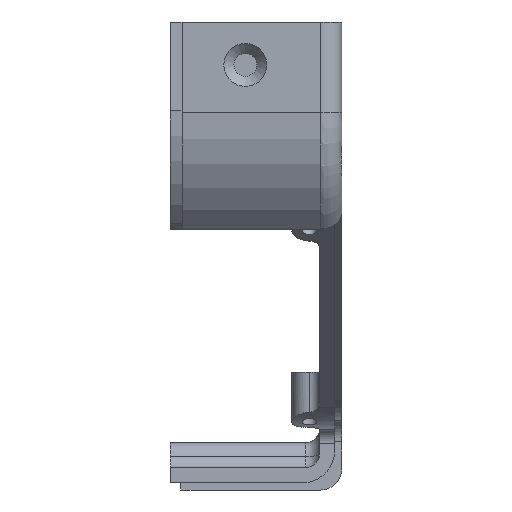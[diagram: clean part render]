
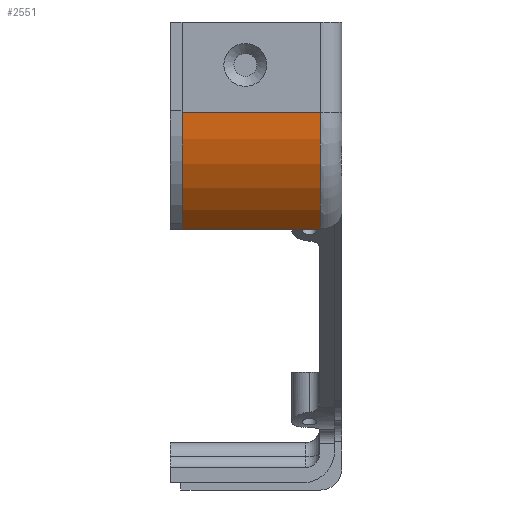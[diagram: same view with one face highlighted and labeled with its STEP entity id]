
A CAD part, front view. The second image highlights one B-rep face of the part: STEP entity #2551.
In plain terms, the highlighted cylindrical face has radius 21.5 mm (diameter 43 mm), a partial arc.
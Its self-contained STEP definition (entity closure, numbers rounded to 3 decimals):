
#184=CYLINDRICAL_SURFACE('',#2859,21.5);
#318=FACE_OUTER_BOUND('',#476,.T.);
#476=EDGE_LOOP('',(#2390,#2391,#2392,#2393));
#681=LINE('',#4653,#884);
#682=LINE('',#4655,#885);
#884=VECTOR('',#3645,10.);
#885=VECTOR('',#3648,10.);
#960=CIRCLE('',#2680,21.5);
#992=CIRCLE('',#2734,21.5);
#1143=VERTEX_POINT('',#4004);
#1144=VERTEX_POINT('',#4006);
#1206=VERTEX_POINT('',#4198);
#1207=VERTEX_POINT('',#4200);
#1419=EDGE_CURVE('',#1143,#1144,#960,.T.);
#1506=EDGE_CURVE('',#1206,#1207,#992,.T.);
#1658=EDGE_CURVE('',#1206,#1144,#681,.T.);
#1659=EDGE_CURVE('',#1143,#1207,#682,.T.);
#2390=ORIENTED_EDGE('',*,*,#1506,.F.);
#2391=ORIENTED_EDGE('',*,*,#1658,.T.);
#2392=ORIENTED_EDGE('',*,*,#1419,.F.);
#2393=ORIENTED_EDGE('',*,*,#1659,.T.);
#2551=ADVANCED_FACE('',(#318),#184,.T.);
#2680=AXIS2_PLACEMENT_3D('',#4007,#3141,#3142);
#2734=AXIS2_PLACEMENT_3D('',#4201,#3302,#3303);
#2859=AXIS2_PLACEMENT_3D('',#4654,#3646,#3647);
#3141=DIRECTION('center_axis',(1.,0.,0.));
#3142=DIRECTION('ref_axis',(0.,-0.906,-0.423));
#3302=DIRECTION('center_axis',(-1.,0.,0.));
#3303=DIRECTION('ref_axis',(0.,-0.906,-0.423));
#3645=DIRECTION('',(1.,0.,0.));
#3646=DIRECTION('center_axis',(1.,0.,0.));
#3647=DIRECTION('ref_axis',(0.,-0.906,-0.423));
#3648=DIRECTION('',(-1.,0.,0.));
#4004=CARTESIAN_POINT('',(40.5,-1.5,-12.674));
#4006=CARTESIAN_POINT('',(40.5,5.989,-28.982));
#4007=CARTESIAN_POINT('Origin',(40.5,20.,-12.674));
#4198=CARTESIAN_POINT('',(21.15,5.989,-28.982));
#4200=CARTESIAN_POINT('',(21.15,-1.5,-12.674));
#4201=CARTESIAN_POINT('Origin',(21.15,20.,-12.674));
#4653=CARTESIAN_POINT('',(0.,5.989,-28.982));
#4654=CARTESIAN_POINT('Origin',(0.,20.,-12.674));
#4655=CARTESIAN_POINT('',(0.,-1.5,-12.674));
